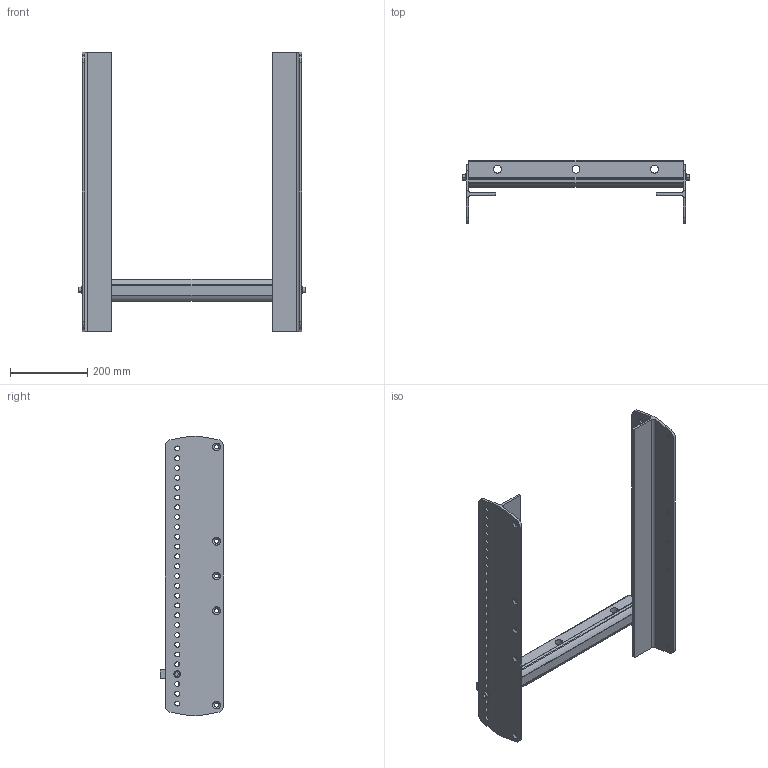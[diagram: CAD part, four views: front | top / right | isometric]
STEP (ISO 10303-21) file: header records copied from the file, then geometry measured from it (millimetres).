
FILE_DESCRIPTION (( 'STEP AP203' ), '1' );
FILE_NAME ('EVA-EG2.STEP', '2021-05-13T06:13:53', ( '' ), ( '' ), 'SwSTEP 2.0', 'SolidWorks 2019', '' );
FILE_SCHEMA (( 'CONFIG_CONTROL_DESIGN' ));
Length unit declared in the file: millimetre
Products named in the file (5): F01U195762; PAR000915; EVA-EG2; FST000109_92610A346; F01U200010
Assembly tree (7 placements, depth 2):
  EVA-EG2
    F01U200010
    PAR000915  x2
    F01U195762  x2
    FST000109_92610A346  x2
Bounding box: 589.48 x 165.1 x 723.9 mm (x, y, z)
Volume: 3212855.7 mm3; surface area: 796738.7 mm2
Topology: 7 solids, 7 shells, 611 faces, 1423 edges, 830 vertices
Faces by surface type: cylinder 335, cone 200, plane 68, torus 8
Entity records: 12654 total; most frequent: CARTESIAN_POINT 4455, DIRECTION 1652, ORIENTED_EDGE 1522, EDGE_CURVE 761, AXIS2_PLACEMENT_3D 651, VERTEX_POINT 449, EDGE_LOOP 404, VECTOR 350
